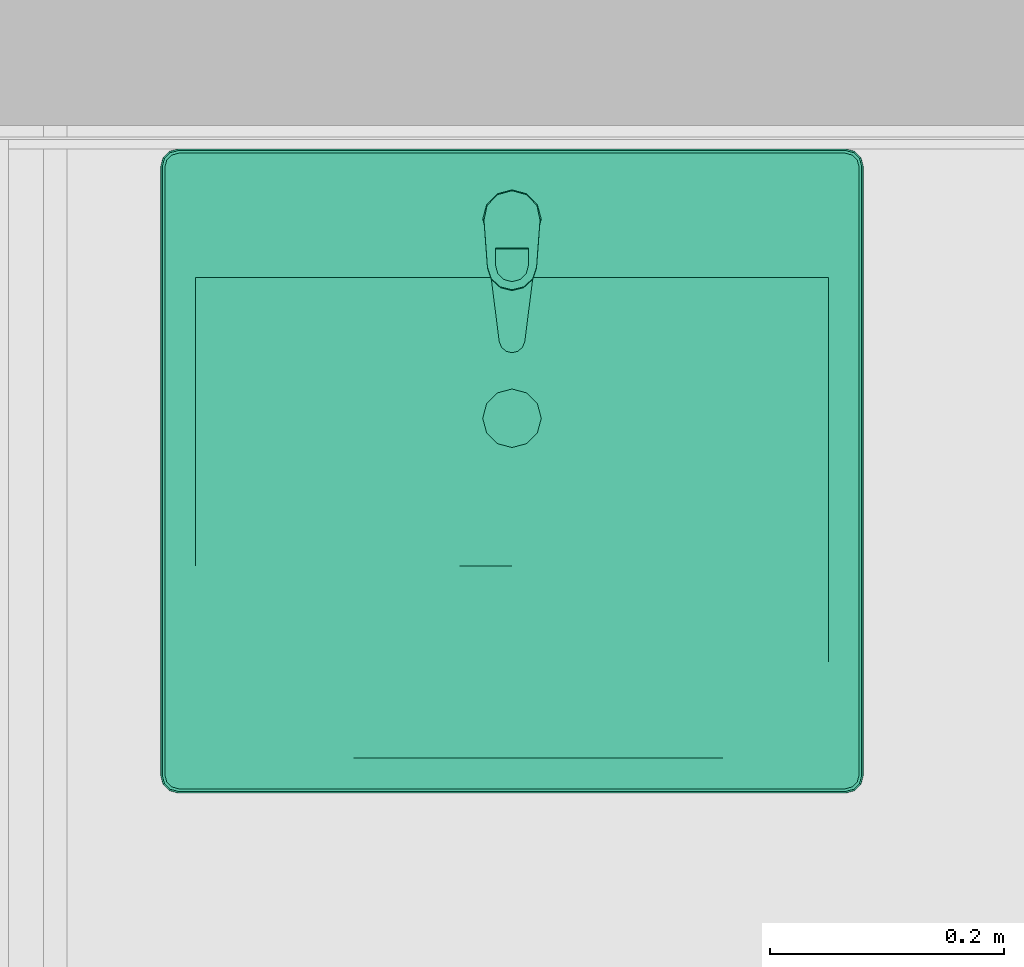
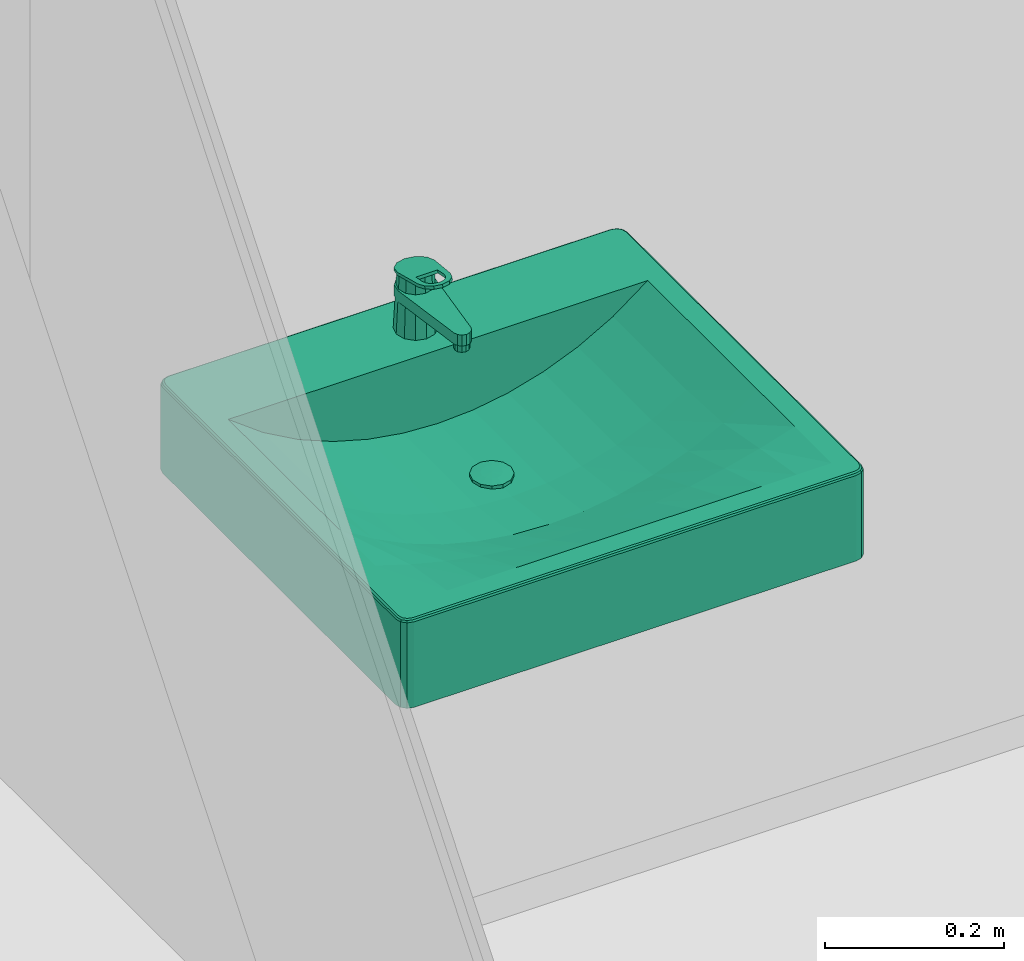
# One storey, part 312 of 347: 1 flow terminal.
"""IFC2X3 building model written with IfcOpenShell, lengths in millimetres."""

from ifc_helpers import new_model, entity, si_unit, converted_unit, derived_unit, money_unit, direction, frame, origin_with_axes, place, context, subcontext, project, spatial, open_shell, faceted_brep, surface_model, type_object, element, save


model = new_model("IFC2X3")

# Units and contexts
model_context = context("Model", 3, precision=0.01, world=origin_with_axes(), true_north=direction((0.0, 1.0)))
plan_context = context("Plan", 3, precision=0.01, world=origin_with_axes(), true_north=direction((0.0, 1.0)))
body_context = subcontext(model_context, "Body", "Model", "MODEL_VIEW")
ifc_project = project(units=[si_unit("LENGTHUNIT", "METRE", prefix="MILLI"), si_unit("AREAUNIT", "SQUARE_METRE"), si_unit("VOLUMEUNIT", "CUBIC_METRE"), converted_unit("PLANEANGLEUNIT", "DEGREE", entity("IfcPlaneAngleMeasure", 0.0174532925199), si_unit("PLANEANGLEUNIT", "RADIAN"), dimensions=[0, 0, 0, 0, 0, 0, 0]), money_unit("EUR"), converted_unit("TIMEUNIT", "Year", entity("IfcTimeMeasure", 31556926.0), si_unit("TIMEUNIT", "SECOND"), dimensions=[0, 0, 1, 0, 0, 0, 0]), si_unit("MASSUNIT", "GRAM", prefix="KILO"), si_unit("THERMODYNAMICTEMPERATUREUNIT", "DEGREE_CELSIUS"), si_unit("LUMINOUSINTENSITYUNIT", "LUMEN"), si_unit("ENERGYUNIT", "JOULE", prefix="MEGA"), derived_unit("THERMALCONDUCTANCEUNIT", [(si_unit("POWERUNIT", "WATT"), 1), (si_unit("LENGTHUNIT", "METRE"), -1), (si_unit("THERMODYNAMICTEMPERATUREUNIT", "KELVIN"), -1)]), derived_unit("SPECIFICHEATCAPACITYUNIT", [(si_unit("ENERGYUNIT", "JOULE"), 1), (si_unit("MASSUNIT", "GRAM", prefix="KILO"), -1), (si_unit("THERMODYNAMICTEMPERATUREUNIT", "KELVIN"), -1)]), derived_unit("MASSDENSITYUNIT", [(si_unit("MASSUNIT", "GRAM", prefix="KILO"), 1), (si_unit("VOLUMEUNIT", "CUBIC_METRE"), -1)])], contexts=[model_context, plan_context])

# Site, building, storey
site_placement = place(None, origin_with_axes())
site = spatial("IfcSite", under=ifc_project, at=site_placement, Name="Site", CompositionType="ELEMENT")
building_placement = place(site_placement, origin_with_axes())
building = spatial("IfcBuilding", under=site, at=building_placement, Name="Naam gebouw", CompositionType="ELEMENT")
storey_placement = place(building_placement, origin_with_axes())
storey = spatial("IfcBuildingStorey", under=building, at=storey_placement, Name="begane grond", CompositionType="ELEMENT", Elevation=0.0)

# Flow terminal
sanitary_terminal_type = type_object("IfcSanitaryTerminalType", Name="Wasbak 25", PredefinedType="WASHHANDBASIN")
flow_terminal_placement = place(storey_placement, frame((36155.0, 34569.9999945, 0.0), z_axis=(0.0, 0.0, 1.0), x_axis=(1.0, 0.0, 0.0)))
element("IfcFlowTerminal", 1, at=flow_terminal_placement, inside=storey, type_object=sanitary_terminal_type, Name="52_Sanitair wastafel", context=body_context, shape_type="SurfaceModel", body=[
    faceted_brep([(-285.0, -550.0, 780.0), (-292.5, -547.990381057, 780.0), (-297.990381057, -542.5, 780.0), (-300.0, -535.0, 780.0), (-300.0, -15.0, 780.0), (-297.990381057, -7.5, 780.0), (-292.5, -2.00961894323, 780.0), (-285.0, 0.0, 780.0), (285.0, 0.0, 780.0), (292.5, -2.00961894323, 780.0), (297.990381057, -7.5, 780.0), (300.0, -15.0, 780.0), (300.0, -535.0, 780.0), (297.990381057, -542.5, 780.0), (292.5, -547.990381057, 780.0), (285.0, -550.0, 780.0), (270.0, -520.0, 780.0), (270.0, -110.0, 780.0), (-270.0, -110.0, 780.0), (-270.0, -520.0, 780.0), (-284.999999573, -550.00000039, 895.0), (-292.499999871, -547.990381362, 895.0), (-297.990381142, -542.500000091, 895.0), (-300.000000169, -534.999999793, 895.0), (-300.000000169, -15.0000002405, 895.0), (-297.990381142, -7.49999994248, 895.0), (-292.499999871, -2.00961867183, 895.0), (-284.999999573, 3.55541707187e-07, 895.0), (284.999999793, 3.55541707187e-07, 895.0), (292.500000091, -2.00961867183, 895.0), (297.990381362, -7.49999994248, 895.0), (300.00000039, -15.0000002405, 895.0), (300.00000039, -534.999999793, 895.0), (297.990381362, -542.500000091, 895.0), (292.500000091, -547.990381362, 895.0), (284.999999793, -550.00000039, 895.0), (270.0, -110.0, 899.999999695), (270.0, -520.0, 899.999999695), (-270.0, -110.0, 899.999999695), (-270.0, -520.0, 899.999999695), (-284.977569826, -549.829629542, 896.294095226), (-292.411809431, -547.837631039, 896.294095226), (-297.837630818, -542.411809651, 896.294095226), (-299.829629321, -534.977570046, 896.294095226), (-299.829629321, -15.0224299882, 896.294095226), (-297.837630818, -7.58819038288, 896.294095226), (-292.411809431, -2.16236899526, 896.294095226), (-284.977569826, -0.170370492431, 896.294095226), (284.977570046, -0.170370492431, 896.294095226), (292.411809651, -2.16236899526, 896.294095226), (297.837631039, -7.58819038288, 896.294095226), (299.829629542, -15.0224299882, 896.294095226), (299.829629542, -534.977570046, 896.294095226), (297.837631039, -542.411809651, 896.294095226), (292.411809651, -547.837631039, 896.294095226), (284.977570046, -549.829629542, 896.294095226), (284.34173768, -4.99999679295, 899.999999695), (-284.341737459, -4.99999679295, 899.999999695), (-289.911810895, -6.49249347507, 899.999999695), (-293.507506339, -10.0881889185, 899.999999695), (-295.000003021, -15.6582623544, 899.999999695), (-295.000003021, -534.34173768, 899.999999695), (-293.507506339, -539.911811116, 899.999999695), (-289.911810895, -543.507506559, 899.999999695), (-284.341737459, -545.000003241, 899.999999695), (284.34173768, -545.000003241, 899.999999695), (289.911811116, -543.507506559, 899.999999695), (293.507506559, -539.911811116, 899.999999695), (295.000003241, -534.34173768, 899.999999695), (295.000003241, -15.6582623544, 899.999999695), (293.507506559, -10.0881889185, 899.999999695), (289.911811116, -6.49249347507, 899.999999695), (-284.807198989, -548.535534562, 898.535533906), (-291.741936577, -546.677377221, 898.535533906), (-296.677377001, -541.741936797, 898.535533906), (-298.535534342, -534.807199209, 898.535533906), (-298.535534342, -15.1928008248, 898.535533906), (-296.677377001, -8.25806323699, 898.535533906), (-291.741936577, -3.32262281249, 898.535533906), (-284.807198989, -1.46446547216, 898.535533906), (284.807199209, -1.46446547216, 898.535533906), (291.741936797, -3.32262281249, 898.535533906), (296.677377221, -8.25806323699, 898.535533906), (298.535534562, -15.1928008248, 898.535533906), (298.535534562, -534.807199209, 898.535533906), (296.677377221, -541.741936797, 898.535533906), (291.741936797, -546.677377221, 898.535533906), (284.807199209, -548.535534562, 898.535533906), (284.512108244, -3.70590388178, 899.829629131), (-284.512108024, -3.70590388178, 899.829629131), (-290.581682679, -5.33224151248, 899.829629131), (-294.667758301, -9.41831713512, 899.829629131), (-296.294095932, -15.4878917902, 899.829629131), (-296.294095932, -534.512108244, 899.829629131), (-294.667758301, -540.581682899, 899.829629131), (-290.581682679, -544.667758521, 899.829629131), (-284.512108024, -546.294096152, 899.829629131), (284.512108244, -546.294096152, 899.829629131), (290.581682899, -544.667758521, 899.829629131), (294.667758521, -540.581682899, 899.829629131), (296.294096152, -534.512108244, 899.829629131), (296.294096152, -15.4878917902, 899.829629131), (294.667758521, -9.41831713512, 899.829629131), (290.581682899, -5.33224151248, 899.829629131)], [[[0, 1, 2, 3, 4, 5, 6, 7, 8, 9, 10, 11, 12, 13, 14, 15], [16, 17, 18, 19]], [[1, 0, 20, 21]], [[2, 1, 21, 22]], [[3, 2, 22, 23]], [[4, 3, 23, 24]], [[5, 4, 24, 25]], [[6, 5, 25, 26]], [[7, 6, 26, 27]], [[8, 7, 27, 28]], [[9, 8, 28, 29]], [[10, 9, 29, 30]], [[11, 10, 30, 31]], [[12, 11, 31, 32]], [[13, 12, 32, 33]], [[14, 13, 33, 34]], [[15, 14, 34, 35]], [[0, 15, 35, 20]], [[36, 17, 16, 37]], [[38, 18, 17, 36]], [[39, 19, 18, 38]], [[37, 16, 19, 39]], [[21, 20, 40, 41]], [[22, 21, 41, 42]], [[23, 22, 42, 43]], [[24, 23, 43, 44]], [[25, 24, 44, 45]], [[26, 25, 45, 46]], [[27, 26, 46, 47]], [[28, 27, 47, 48]], [[29, 28, 48, 49]], [[30, 29, 49, 50]], [[31, 30, 50, 51]], [[32, 31, 51, 52]], [[33, 32, 52, 53]], [[34, 33, 53, 54]], [[35, 34, 54, 55]], [[20, 35, 55, 40]], [[56, 57, 58, 59, 60, 61, 62, 63, 64, 65, 66, 67, 68, 69, 70, 71], [37, 39, 38, 36]], [[41, 40, 72, 73]], [[42, 41, 73, 74]], [[43, 42, 74, 75]], [[44, 43, 75, 76]], [[45, 44, 76, 77]], [[46, 45, 77, 78]], [[47, 46, 78, 79]], [[48, 47, 79, 80]], [[49, 48, 80, 81]], [[50, 49, 81, 82]], [[51, 50, 82, 83]], [[52, 51, 83, 84]], [[53, 52, 84, 85]], [[54, 53, 85, 86]], [[55, 54, 86, 87]], [[40, 55, 87, 72]], [[88, 89, 57, 56]], [[89, 90, 58, 57]], [[90, 91, 59, 58]], [[91, 92, 60, 59]], [[92, 93, 61, 60]], [[93, 94, 62, 61]], [[94, 95, 63, 62]], [[95, 96, 64, 63]], [[96, 97, 65, 64]], [[97, 98, 66, 65]], [[98, 99, 67, 66]], [[99, 100, 68, 67]], [[100, 101, 69, 68]], [[101, 102, 70, 69]], [[102, 103, 71, 70]], [[103, 88, 56, 71]], [[73, 72, 96, 95]], [[74, 73, 95, 94]], [[75, 74, 94, 93]], [[76, 75, 93, 92]], [[77, 76, 92, 91]], [[78, 77, 91, 90]], [[79, 78, 90, 89]], [[80, 79, 89, 88]], [[81, 80, 88, 103]], [[82, 81, 103, 102]], [[83, 82, 102, 101]], [[84, 83, 101, 100]], [[85, 84, 100, 99]], [[86, 85, 99, 98]], [[87, 86, 98, 97]], [[72, 87, 97, 96]]]),
    faceted_brep([(270.0, -520.0, 780.0), (-270.0, -520.0, 780.0), (-270.0, -110.0, 780.0), (270.0, -110.0, 780.0), (-12.5, -251.638635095, 780.0), (0.0, -254.988, 780.0), (12.5, -251.638635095, 780.0), (21.6506350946, -242.488, 780.0), (25.0, -229.988, 780.0), (21.6506350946, -217.488, 780.0), (12.5, -208.337364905, 780.0), (0.0, -204.988, 780.0), (-12.5, -208.337364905, 780.0), (-21.6506350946, -217.488, 780.0), (-25.0, -229.988, 780.0), (-21.6506350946, -242.488, 780.0), (135.0, -520.0, 900.0), (90.0, -520.0, 900.0), (45.0, -520.0, 900.0), (0.0, -520.0, 900.0), (-45.0, -520.0, 900.0), (-90.0, -520.0, 900.0), (-135.0, -520.0, 900.0), (-180.0, -520.0, 900.0), (-225.0, -520.0, 900.0), (-270.0, -520.0, 900.0), (270.0, -520.0, 900.0), (225.0, -520.0, 900.0), (180.0, -520.0, 900.0), (-270.0, -274.0, 900.0), (-270.0, -192.0, 900.0), (-270.0, -110.0, 900.0), (-270.0, -438.0, 900.0), (-270.0, -356.0, 900.0), (-135.0, -110.0, 822.600459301), (-90.0, -110.0, 809.888766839), (-45.0, -110.0, 802.449942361), (0.0, -110.0, 800.0), (45.0, -110.0, 802.449942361), (90.0, -110.0, 809.888766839), (135.0, -110.0, 822.600459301), (180.0, -110.0, 841.123179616), (225.0, -110.0, 866.383281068), (270.0, -110.0, 900.0), (-225.0, -110.0, 866.383281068), (-180.0, -110.0, 841.123179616), (270.0, -356.0, 900.0), (270.0, -438.0, 900.0), (270.0, -192.0, 900.0), (270.0, -274.0, 900.0), (0.0, -254.988, 800.0), (-12.5, -251.638635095, 800.680539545), (12.5, -251.638635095, 800.680539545), (21.6506350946, -242.488, 801.178729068), (25.0, -229.988, 801.36107909), (21.6506350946, -217.488, 801.178729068), (12.5, -208.337364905, 800.680539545), (0.0, -204.988, 800.0), (-12.5, -208.337364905, 800.680539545), (-21.6506350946, -217.488, 801.178729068), (-25.0, -229.988, 801.36107909), (-21.6506350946, -242.488, 801.178729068), (90.0, -438.0, 859.698966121), (45.0, -438.0, 856.021333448), (0.0, -438.0, 854.799081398), (-45.0, -438.0, 856.021333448), (-90.0, -438.0, 859.698966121), (-135.0, -438.0, 865.865098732), (-180.0, -438.0, 874.576615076), (-225.0, -438.0, 885.916884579), (225.0, -438.0, 885.916884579), (180.0, -438.0, 874.576615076), (135.0, -438.0, 865.865098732), (-225.0, -274.0, 866.383281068), (-225.0, -192.0, 866.383281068), (-225.0, -356.0, 870.843379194), (-135.0, -192.0, 822.600459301), (-90.0, -192.0, 809.888766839), (-45.0, -192.0, 802.449942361), (0.0, -192.0, 800.0), (45.0, -192.0, 802.449942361), (90.0, -192.0, 809.888766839), (135.0, -192.0, 822.600459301), (180.0, -192.0, 841.123179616), (225.0, -192.0, 866.383281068), (-180.0, -192.0, 841.123179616), (225.0, -356.0, 870.843379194), (225.0, -274.0, 866.383281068), (-45.0, -274.0, 802.449942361), (0.0, -274.0, 800.0), (45.0, -274.0, 802.449942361), (-180.0, -274.0, 841.123179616), (-135.0, -274.0, 822.600459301), (-90.0, -274.0, 809.888766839), (90.0, -274.0, 809.888766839), (135.0, -274.0, 822.600459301), (180.0, -274.0, 841.123179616), (0.0, -356.0, 811.460400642), (45.0, -356.0, 813.686473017), (90.0, -356.0, 820.431203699), (-45.0, -356.0, 813.686473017), (-90.0, -356.0, 820.431203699), (-135.0, -356.0, 831.904485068), (-180.0, -356.0, 848.49465434), (180.0, -356.0, 848.49465434), (135.0, -356.0, 831.904485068)], [[[0, 1, 2, 3], [4, 5, 6, 7, 8, 9, 10, 11, 12, 13, 14, 15]], [[16, 17, 18, 19, 20, 21, 22, 23, 24, 25, 1, 0, 26, 27, 28]], [[29, 30, 31, 2, 1, 25, 32, 33]], [[34, 35, 36, 37, 38, 39, 40, 41, 42, 43, 3, 2, 31, 44, 45]], [[46, 47, 26, 0, 3, 43, 48, 49]], [[50, 5, 4, 51]], [[52, 6, 5, 50]], [[53, 7, 6, 52]], [[54, 8, 7, 53]], [[55, 9, 8, 54]], [[56, 10, 9, 55]], [[57, 11, 10, 56]], [[58, 12, 11, 57]], [[59, 13, 12, 58]], [[60, 14, 13, 59]], [[61, 15, 14, 60]], [[51, 4, 15, 61]], [[16, 62, 17]], [[17, 63, 18]], [[18, 64, 19]], [[19, 65, 20]], [[20, 66, 21]], [[21, 67, 22]], [[22, 68, 23]], [[23, 69, 24]], [[24, 32, 25]], [[26, 70, 27]], [[27, 71, 28]], [[28, 72, 16]], [[29, 73, 74, 30]], [[30, 74, 44, 31]], [[69, 33, 32]], [[75, 29, 33]], [[76, 77, 35, 34]], [[77, 78, 36, 35]], [[78, 79, 37, 36]], [[79, 80, 38, 37]], [[80, 81, 39, 38]], [[81, 82, 40, 39]], [[82, 83, 41, 40]], [[83, 84, 42, 41]], [[84, 48, 43, 42]], [[74, 85, 45, 44]], [[85, 76, 34, 45]], [[47, 46, 86]], [[26, 47, 70]], [[87, 49, 48, 84]], [[46, 49, 87]], [[58, 57, 79, 78, 88, 89, 50, 51, 61, 60, 59]], [[56, 55, 54, 53, 52, 50, 89, 90, 80, 79, 57]], [[16, 72, 62]], [[17, 62, 63]], [[18, 63, 64]], [[19, 64, 65]], [[20, 65, 66]], [[21, 66, 67]], [[22, 67, 68]], [[23, 68, 69]], [[24, 69, 32]], [[27, 70, 71]], [[28, 71, 72]], [[75, 73, 29]], [[73, 91, 85, 74]], [[69, 75, 33]], [[92, 93, 77, 76]], [[93, 88, 78, 77]], [[90, 94, 81, 80]], [[94, 95, 82, 81]], [[95, 96, 83, 82]], [[96, 87, 84, 83]], [[91, 92, 76, 85]], [[46, 87, 86]], [[47, 86, 70]], [[97, 89, 88]], [[98, 90, 89]], [[72, 99, 62]], [[62, 98, 63]], [[63, 97, 64]], [[64, 100, 65]], [[65, 101, 66]], [[66, 102, 67]], [[67, 103, 68]], [[68, 75, 69]], [[70, 104, 71]], [[71, 105, 72]], [[103, 73, 75]], [[103, 91, 73]], [[101, 93, 92]], [[100, 88, 93]], [[99, 94, 90]], [[105, 95, 94]], [[104, 96, 95]], [[86, 87, 96]], [[102, 92, 91]], [[70, 86, 104]], [[98, 89, 97]], [[97, 88, 100]], [[99, 90, 98]], [[72, 105, 99]], [[62, 99, 98]], [[63, 98, 97]], [[64, 97, 100]], [[65, 100, 101]], [[66, 101, 102]], [[67, 102, 103]], [[68, 103, 75]], [[71, 104, 105]], [[102, 91, 103]], [[100, 93, 101]], [[101, 92, 102]], [[105, 94, 99]], [[104, 95, 105]], [[86, 96, 104]]]),
    faceted_brep([(-21.6506350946, -242.488, 800.0), (-25.0, -229.988, 800.0), (-21.6506350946, -217.488, 800.0), (-12.5, -208.337364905, 800.0), (0.0, -204.988, 800.0), (12.5, -208.337364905, 800.0), (21.6506350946, -217.488, 800.0), (25.0, -229.988, 800.0), (21.6506350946, -242.488, 800.0), (12.5, -251.638635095, 800.0), (0.0, -254.988, 800.0), (-12.5, -251.638635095, 800.0), (-21.6506350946, -242.488, 805.0), (-25.0, -229.988, 805.0), (-21.6506350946, -217.488, 805.0), (-12.5, -208.337364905, 805.0), (0.0, -204.988, 805.0), (12.5, -208.337364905, 805.0), (21.6506350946, -217.488, 805.0), (25.0, -229.988, 805.0), (21.6506350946, -242.488, 805.0), (12.5, -251.638635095, 805.0), (0.0, -254.988, 805.0), (-12.5, -251.638635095, 805.0)], [[[0, 1, 2, 3, 4, 5, 6, 7, 8, 9, 10, 11]], [[0, 12, 13, 1]], [[1, 13, 14, 2]], [[2, 14, 15, 3]], [[3, 15, 16, 4]], [[4, 16, 17, 5]], [[5, 17, 18, 6]], [[6, 18, 19, 7]], [[7, 19, 20, 8]], [[8, 20, 21, 9]], [[9, 21, 22, 10]], [[10, 22, 23, 11]], [[11, 23, 12, 0]], [[12, 23, 22, 21, 20, 19, 18, 17, 16, 15, 14, 13]]]),
    surface_model("IfcShellBasedSurfaceModel", [(0.0, -229.988, 807.0), (6.31095278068, -219.05710914, 806.49757372), (0.0, -217.366094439, 806.49757372), (10.9308908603, -223.677047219, 806.49757372), (12.5, -208.337364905, 805.0), (0.0, -204.988, 805.0), (-6.31095278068, -219.05710914, 806.49757372), (12.6219055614, -229.988, 806.49757372), (21.6506350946, -217.488, 805.0), (-12.5, -208.337364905, 805.0), (-10.9308908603, -223.677047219, 806.49757372), (10.9308908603, -236.298952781, 806.49757372), (25.0, -229.988, 805.0), (-21.6506350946, -217.488, 805.0), (-12.6219055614, -229.988, 806.49757372), (6.31095278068, -240.91889086, 806.49757372), (21.6506350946, -242.488, 805.0), (-25.0, -229.988, 805.0), (-10.9308908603, -236.298952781, 806.49757372), (0.0, -242.609905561, 806.49757372), (12.5, -251.638635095, 805.0), (-21.6506350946, -242.488, 805.0), (-6.31095278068, -240.91889086, 806.49757372), (0.0, -254.988, 805.0), (-12.5, -251.638635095, 805.0)], [open_shell([[[0, 1, 2]], [[0, 3, 1]], [[1, 4, 5, 2]], [[0, 2, 6]], [[0, 7, 3]], [[3, 8, 4, 1]], [[2, 5, 9, 6]], [[0, 6, 10]], [[0, 11, 7]], [[7, 12, 8, 3]], [[6, 9, 13, 10]], [[0, 10, 14]], [[0, 15, 11]], [[11, 16, 12, 7]], [[10, 13, 17, 14]], [[0, 14, 18]], [[0, 19, 15]], [[15, 20, 16, 11]], [[14, 17, 21, 18]], [[0, 18, 22]], [[0, 22, 19]], [[19, 23, 20, 15]], [[18, 21, 24, 22]], [[22, 24, 23, 19]]])]),
    faceted_brep([(-12.5, -38.3493649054, 900.0), (-10.5873227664, -41.6622190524, 976.507089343), (0.0, -38.7980769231, 975.961538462), (0.0, -35.0, 900.0), (-21.6506350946, -47.5, 900.0), (-18.2735503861, -49.4497607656, 977.990430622), (-21.0, -60.0, 980.0), (-18.1003413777, -70.4502369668, 981.990521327), (-10.4141059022, -78.037760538, 983.435763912), (0.0, -80.8018867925, 983.962264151), (10.4141059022, -78.037760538, 983.435763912), (18.1003413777, -70.4502369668, 981.990521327), (21.0, -60.0, 980.0), (18.2735503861, -49.4497607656, 977.990430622), (10.5873227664, -41.6622190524, 976.507089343), (12.5, -38.3493649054, 900.0), (21.6506350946, -47.5, 900.0), (25.0, -60.0, 900.0), (21.6506350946, -72.5, 900.0), (12.5, -81.6506350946, 900.0), (0.0, -85.0, 900.0), (-12.5, -81.6506350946, 900.0), (-21.6506350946, -72.5, 900.0), (-25.0, -60.0, 900.0)], [[[0, 1, 2, 3]], [[4, 5, 1, 0]], [[1, 5, 6, 7, 8, 9, 10, 11, 12, 13, 14, 2]], [[3, 2, 14, 15]], [[0, 3, 15, 16, 17, 18, 19, 20, 21, 22, 23, 4]], [[23, 6, 5, 4]], [[22, 7, 6, 23]], [[21, 8, 7, 22]], [[20, 9, 8, 21]], [[19, 10, 9, 20]], [[18, 11, 10, 19]], [[17, 12, 11, 18]], [[16, 13, 12, 17]], [[15, 14, 13, 16]]]),
    faceted_brep([(-9.0, -163.0, 935.0), (-9.0, -163.0, 945.0), (-7.79422863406, -158.5, 945.0), (-7.79422863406, -158.5, 935.0), (-7.79422863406, -167.5, 935.0), (-7.79422863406, -167.5, 945.0), (-4.5, -170.794228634, 945.0), (0.0, -172.0, 945.0), (4.5, -170.794228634, 945.0), (7.79422863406, -167.5, 945.0), (9.0, -163.0, 945.0), (7.79422863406, -158.5, 945.0), (4.5, -155.205771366, 945.0), (0.0, -154.0, 945.0), (-4.5, -155.205771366, 945.0), (-4.5, -155.205771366, 935.0), (0.0, -154.0, 935.0), (4.5, -155.205771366, 935.0), (7.79422863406, -158.5, 935.0), (9.0, -163.0, 935.0), (7.79422863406, -167.5, 935.0), (4.5, -170.794228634, 935.0), (0.0, -172.0, 935.0), (-4.5, -170.794228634, 935.0)], [[[0, 1, 2, 3]], [[4, 5, 1, 0]], [[1, 5, 6, 7, 8, 9, 10, 11, 12, 13, 14, 2]], [[3, 2, 14, 15]], [[0, 3, 15, 16, 17, 18, 19, 20, 21, 22, 23, 4]], [[23, 6, 5, 4]], [[22, 7, 6, 23]], [[21, 8, 7, 22]], [[20, 9, 8, 21]], [[19, 10, 9, 20]], [[18, 11, 10, 19]], [[17, 12, 11, 18]], [[16, 13, 12, 17]], [[15, 14, 13, 16]]]),
    faceted_brep([(12.8717176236, -39.7436961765, 960.0), (-1.01998896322e-06, -36.000021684, 960.0), (-12.8717193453, -39.7436972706, 960.0), (-21.7278061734, -49.806796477, 960.0), (-23.8053997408, -63.0499020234, 960.0), (-10.912, -164.3883, 960.0), (-9.02891689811, -169.283134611, 960.0), (-5.09338878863, -172.749692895, 960.0), (-3.62679860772e-05, -173.99996004, 960.0), (5.09332449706, -172.749726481, 960.0), (9.02887546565, -169.283194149, 960.0), (10.911990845, -164.388371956, 960.0), (23.8054, -63.0499, 960.0), (21.727805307, -49.8067946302, 960.0), (-11.0, -40.9474411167, 960.0), (0.0, -38.0, 960.0), (11.0, -40.9474411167, 960.0), (19.0525588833, -49.0, 960.0), (22.0, -60.0, 960.0), (19.0525588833, -71.0, 960.0), (11.0, -79.0525588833, 960.0), (0.0, -82.0, 960.0), (-11.0, -79.0525588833, 960.0), (-19.0525588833, -71.0, 960.0), (-22.0, -60.0, 960.0), (-19.0525588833, -49.0, 960.0), (12.8717176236, -39.7436961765, 945.0), (-1.01998896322e-06, -36.000021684, 945.0), (-12.8717193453, -39.7436972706, 945.0), (-21.7278061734, -49.806796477, 945.0), (-23.8053997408, -63.0499020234, 945.0), (-10.912, -164.3883, 945.0), (-9.02891689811, -169.283134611, 945.0), (-5.09338878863, -172.749692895, 945.0), (-3.62679860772e-05, -173.99996004, 945.0), (5.09332449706, -172.749726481, 945.0), (9.02887546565, -169.283194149, 945.0), (10.911990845, -164.388371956, 945.0), (23.8054, -63.0499, 945.0), (21.727805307, -49.8067946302, 945.0), (0.0, -37.25, 945.0), (-11.375, -40.2979220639, 945.0), (11.375, -40.2979220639, 945.0), (19.7020779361, -48.625, 945.0), (22.75, -60.0, 945.0), (19.7020779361, -71.375, 945.0), (11.375, -79.7020779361, 945.0), (0.0, -82.75, 945.0), (-11.375, -79.7020779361, 945.0), (-19.7020779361, -71.375, 945.0), (-22.75, -60.0, 945.0), (-19.7020779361, -48.625, 945.0)], [[[0, 1, 2, 3, 4, 5, 6, 7, 8, 9, 10, 11, 12, 13], [14, 15, 16, 17, 18, 19, 20, 21, 22, 23, 24, 25]], [[26, 27, 1, 0]], [[27, 28, 2, 1]], [[28, 29, 3, 2]], [[29, 30, 4, 3]], [[30, 31, 5, 4]], [[31, 32, 6, 5]], [[32, 33, 7, 6]], [[33, 34, 8, 7]], [[34, 35, 9, 8]], [[35, 36, 10, 9]], [[36, 37, 11, 10]], [[37, 38, 12, 11]], [[38, 39, 13, 12]], [[39, 26, 0, 13]], [[40, 15, 14, 41]], [[42, 16, 15, 40]], [[16, 42, 43, 17]], [[17, 43, 44, 18]], [[18, 44, 45, 19]], [[19, 45, 46, 20]], [[20, 46, 47, 21]], [[48, 22, 21, 47]], [[49, 23, 22, 48]], [[50, 24, 23, 49]], [[51, 25, 24, 50]], [[41, 14, 25, 51]], [[34, 33, 32, 31, 30, 29, 28, 27, 26, 39, 38, 37, 36, 35], [48, 47, 46, 45, 44, 43, 42, 40, 41, 51, 50, 49]]]),
    faceted_brep([(-23.893, -61.6925693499, 980.322394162), (-23.893, -60.9441209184, 984.251748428), (-21.2964214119, -48.4768327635, 981.877026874), (-21.2964214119, -49.225281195, 977.947672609), (-20.9459364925, -101.836702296, 987.968895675), (-20.9459364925, -101.088253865, 991.898249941), (-17.6631391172, -110.76591808, 993.741614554), (-10.0614352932, -117.71529766, 995.065305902), (0.000442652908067, -120.237163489, 995.545661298), (10.0622123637, -117.714880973, 995.065226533), (17.6636179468, -110.765186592, 993.741475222), (20.946, -101.087386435, 991.898084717), (23.893020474, -60.9438419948, 984.251695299), (21.2962910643, -48.4765841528, 981.87697952), (12.4716815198, -39.1603541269, 980.102459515), (-0.000142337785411, -35.7195870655, 979.447075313), (-12.4719245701, -39.1604997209, 980.102487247), (-14.0, -84.7923542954, 988.794269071), (14.0, -84.7923542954, 988.794269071), (14.0, -99.6079845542, 991.616293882), (12.124355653, -106.484354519, 992.926078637), (7.0, -111.518206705, 993.884907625), (0.0, -113.360724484, 994.235863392), (-7.0, -111.518206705, 993.884907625), (-12.124355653, -106.484354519, 992.926078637), (-14.0, -99.6079845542, 991.616293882), (-12.4719245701, -39.9089481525, 976.173132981), (-0.000142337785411, -36.4680354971, 975.517721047), (12.4716815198, -39.9088025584, 976.173105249), (21.2962910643, -49.2250325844, 977.947625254), (23.893020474, -61.6922904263, 980.322341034), (20.946, -101.835834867, 987.968730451), (17.6636179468, -111.513635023, 989.812120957), (10.0622123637, -118.463329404, 991.135872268), (0.000442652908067, -120.98561192, 991.616307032), (-10.0614352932, -118.463746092, 991.135951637), (-17.6631391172, -111.514366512, 989.812260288), (-14.0, -85.540802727, 984.864914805), (-14.0, -100.356432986, 987.686939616), (-12.124355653, -107.232802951, 988.996724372), (-7.0, -112.266655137, 989.955553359), (0.0, -114.109172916, 990.306509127), (7.0, -112.266655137, 989.955553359), (12.124355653, -107.232802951, 988.996724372), (14.0, -100.356432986, 987.686939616), (14.0, -85.540802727, 984.864914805)], [[[0, 1, 2, 3]], [[4, 5, 1, 0]], [[1, 5, 6, 7, 8, 9, 10, 11, 12, 13, 14, 15, 16, 2], [17, 18, 19, 20, 21, 22, 23, 24, 25]], [[3, 2, 16, 26]], [[0, 3, 26, 27, 28, 29, 30, 31, 32, 33, 34, 35, 36, 4], [37, 38, 39, 40, 41, 42, 43, 44, 45]], [[36, 6, 5, 4]], [[35, 7, 6, 36]], [[34, 8, 7, 35]], [[33, 9, 8, 34]], [[32, 10, 9, 33]], [[31, 11, 10, 32]], [[30, 12, 11, 31]], [[29, 13, 12, 30]], [[28, 14, 13, 29]], [[27, 15, 14, 28]], [[26, 16, 15, 27]], [[45, 18, 17, 37]], [[44, 19, 18, 45]], [[43, 20, 19, 44]], [[42, 21, 20, 43]], [[41, 22, 21, 42]], [[40, 23, 22, 41]], [[39, 24, 23, 40]], [[38, 25, 24, 39]], [[37, 17, 25, 38]]]),
    surface_model("IfcShellBasedSurfaceModel", [(0.0, -250.988, 780.0), (0.0, -250.988, 760.0), (5.43519994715, -250.272442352, 760.0), (5.43519994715, -250.272442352, 780.0), (-5.43519994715, -250.272442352, 780.0), (-5.43519994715, -250.272442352, 760.0), (10.5, -248.174533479, 760.0), (10.5, -248.174533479, 780.0), (-10.5, -248.174533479, 780.0), (-10.5, -248.174533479, 760.0), (14.8492424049, -244.837242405, 760.0), (14.8492424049, -244.837242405, 780.0), (-14.8492424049, -244.837242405, 780.0), (-14.8492424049, -244.837242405, 760.0), (18.1865334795, -240.488, 760.0), (18.1865334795, -240.488, 780.0), (-18.1865334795, -240.488, 780.0), (-18.1865334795, -240.488, 760.0), (20.2844423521, -235.423199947, 760.0), (20.2844423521, -235.423199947, 780.0), (-20.2844423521, -235.423199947, 780.0), (-20.2844423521, -235.423199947, 760.0), (21.0, -229.988, 760.0), (21.0, -229.988, 780.0), (-21.0, -229.988, 780.0), (-21.0, -229.988, 760.0), (20.2844423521, -224.552800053, 760.0), (20.2844423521, -224.552800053, 780.0), (-20.2844423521, -224.552800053, 780.0), (-20.2844423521, -224.552800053, 760.0), (18.1865334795, -219.488, 760.0), (18.1865334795, -219.488, 780.0), (-18.1865334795, -219.488, 780.0), (-18.1865334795, -219.488, 760.0), (14.8492424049, -215.138757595, 760.0), (14.8492424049, -215.138757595, 780.0), (-14.8492424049, -215.138757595, 780.0), (-14.8492424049, -215.138757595, 760.0), (10.5, -211.801466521, 760.0), (10.5, -211.801466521, 780.0), (-10.5, -211.801466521, 780.0), (-10.5, -211.801466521, 760.0), (5.43519994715, -209.703557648, 760.0), (5.43519994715, -209.703557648, 780.0), (-5.43519994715, -209.703557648, 780.0), (-5.43519994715, -209.703557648, 760.0), (0.0, -208.988, 760.0), (0.0, -208.988, 780.0)], [open_shell([[[0, 1, 2, 3]], [[4, 5, 1, 0]], [[3, 2, 6, 7]], [[8, 9, 5, 4]], [[7, 6, 10, 11]], [[12, 13, 9, 8]], [[11, 10, 14, 15]], [[16, 17, 13, 12]], [[15, 14, 18, 19]], [[20, 21, 17, 16]], [[19, 18, 22, 23]], [[24, 25, 21, 20]], [[23, 22, 26, 27]], [[28, 29, 25, 24]], [[27, 26, 30, 31]], [[32, 33, 29, 28]], [[31, 30, 34, 35]], [[36, 37, 33, 32]], [[35, 34, 38, 39]], [[40, 41, 37, 36]], [[39, 38, 42, 43]], [[44, 45, 41, 40]], [[43, 42, 46, 47]], [[47, 46, 45, 44]]])]),
])

save(model, "model.ifc")
